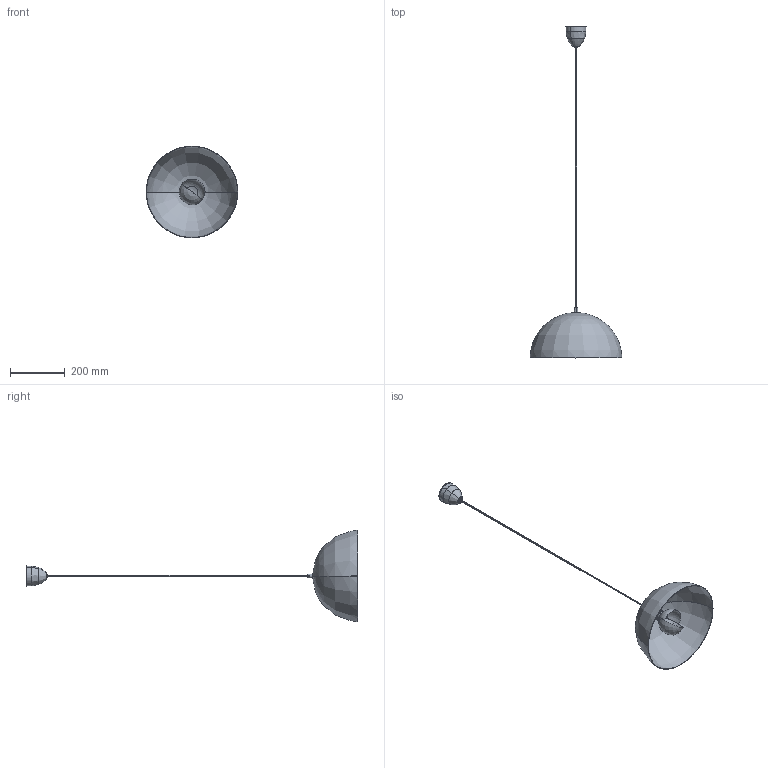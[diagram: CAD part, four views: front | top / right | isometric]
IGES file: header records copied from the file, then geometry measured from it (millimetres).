
Start section: SolidWorks IGES file using analytic representation for surfaces
Global section: file name: E:\3D lampy\Hemisphere\Hemisphera S\Hemisphera S.IGS; native system: SolidWorks 2016; preprocessor: SolidWorks 2016; author: Asia; date: 161021.151822; units: millimetre
Bounding box: 335 x 1212.48 x 335 mm (x, y, z)
Surface area: 463073.5 mm2 (no closed solid volume)
Topology: 0 solids, 0 shells, 182 faces, 3452 edges, 3451 vertices
Faces by surface type: revolution 92, bspline 90
